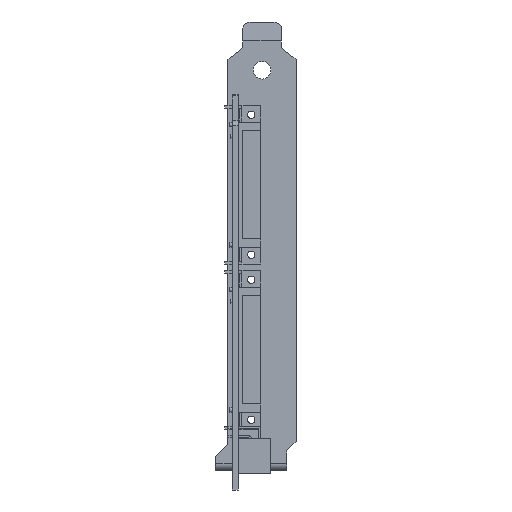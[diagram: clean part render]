
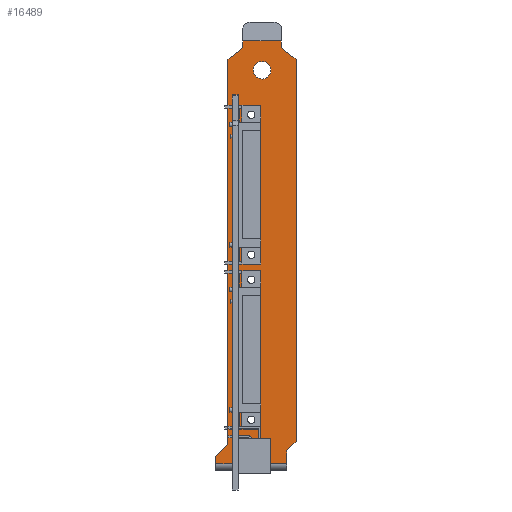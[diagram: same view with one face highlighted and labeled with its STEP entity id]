
A CAD part, front view. The second image highlights one B-rep face of the part: STEP entity #16489.
In plain terms, the highlighted planar face has unit normal (0, -1, 0).
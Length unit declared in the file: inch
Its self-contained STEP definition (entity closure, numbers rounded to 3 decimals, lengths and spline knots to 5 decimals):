
#3156=DIRECTION('',(1.,0.,0.));
#3157=VECTOR('',#3156,0.412);
#3158=CARTESIAN_POINT('',(0.108,0.33,0.758));
#3159=LINE('',#3158,#3157);
#3160=DIRECTION('',(0.,0.,-1.));
#3161=VECTOR('',#3160,0.074);
#3162=CARTESIAN_POINT('',(0.52,0.33,0.758));
#3163=LINE('',#3162,#3161);
#3164=DIRECTION('',(-0.788,0.,0.616));
#3165=VECTOR('',#3164,0.1967);
#3166=CARTESIAN_POINT('',(0.675,0.33,0.5629));
#3167=LINE('',#3166,#3165);
#3168=DIRECTION('',(0.707,0.,0.707));
#3169=VECTOR('',#3168,0.14142);
#3170=CARTESIAN_POINT('',(0.575,0.33,-3.589));
#3171=LINE('',#3170,#3169);
#3172=DIRECTION('',(0.,0.,1.));
#3173=VECTOR('',#3172,0.137);
#3174=CARTESIAN_POINT('',(0.575,0.33,-3.726));
#3175=LINE('',#3174,#3173);
#3176=DIRECTION('',(-1.,0.,0.));
#3177=VECTOR('',#3176,0.75);
#3178=CARTESIAN_POINT('',(0.575,0.33,-3.726));
#3179=LINE('',#3178,#3177);
#3180=DIRECTION('',(-0.707,0.,-0.707));
#3181=VECTOR('',#3180,0.18102);
#3182=CARTESIAN_POINT('',(-0.047,0.33,-3.52));
#3183=LINE('',#3182,#3181);
#3184=DIRECTION('',(0.,0.,-1.));
#3185=VECTOR('',#3184,4.0829);
#3186=CARTESIAN_POINT('',(-0.047,0.33,0.5629));
#3187=LINE('',#3186,#3185);
#3188=DIRECTION('',(-0.788,0.,-0.616));
#3189=VECTOR('',#3188,0.1967);
#3190=CARTESIAN_POINT('',(0.108,0.33,0.684));
#3191=LINE('',#3190,#3189);
#3192=DIRECTION('',(0.,0.,-1.));
#3193=VECTOR('',#3192,0.074);
#3194=CARTESIAN_POINT('',(0.108,0.33,0.758));
#3195=LINE('',#3194,#3193);
#3196=CARTESIAN_POINT('',(0.314,0.33,0.447));
#3197=DIRECTION('',(0.,1.,0.));
#3198=DIRECTION('',(0.,0.,1.));
#3199=AXIS2_PLACEMENT_3D('',#3196,#3197,#3198);
#3201=CARTESIAN_POINT('',(0.314,0.33,0.447));
#3202=DIRECTION('',(0.,1.,0.));
#3203=DIRECTION('',(0.,0.,-1.));
#3204=AXIS2_PLACEMENT_3D('',#3201,#3202,#3203);
#3206=DIRECTION('',(0.,0.,1.));
#3207=VECTOR('',#3206,1.32677);
#3208=CARTESIAN_POINT('',(0.062,0.33,-1.4302));
#3209=LINE('',#3208,#3207);
#3210=DIRECTION('',(1.,0.,0.));
#3211=VECTOR('',#3210,0.03937);
#3212=CARTESIAN_POINT('',(0.062,0.33,-1.4302));
#3213=LINE('',#3212,#3211);
#3214=DIRECTION('',(0.,0.,-1.));
#3215=VECTOR('',#3214,0.17717);
#3216=CARTESIAN_POINT('',(0.10137,0.33,-1.4302));
#3217=LINE('',#3216,#3215);
#3218=DIRECTION('',(1.,0.,0.));
#3219=VECTOR('',#3218,0.19685);
#3220=CARTESIAN_POINT('',(0.10137,0.33,-1.60736));
#3221=LINE('',#3220,#3219);
#3222=DIRECTION('',(0.,0.,1.));
#3223=VECTOR('',#3222,1.6811);
#3224=CARTESIAN_POINT('',(0.29822,0.33,-1.60736));
#3225=LINE('',#3224,#3223);
#3226=DIRECTION('',(1.,0.,0.));
#3227=VECTOR('',#3226,0.19685);
#3228=CARTESIAN_POINT('',(0.10137,0.33,0.07374));
#3229=LINE('',#3228,#3227);
#3230=DIRECTION('',(0.,0.,1.));
#3231=VECTOR('',#3230,0.17717);
#3232=CARTESIAN_POINT('',(0.10137,0.33,-0.10343));
#3233=LINE('',#3232,#3231);
#3234=DIRECTION('',(1.,0.,0.));
#3235=VECTOR('',#3234,0.03937);
#3236=CARTESIAN_POINT('',(0.062,0.33,-0.10343));
#3237=LINE('',#3236,#3235);
#3238=DIRECTION('',(0.,0.,1.));
#3239=VECTOR('',#3238,1.32677);
#3240=CARTESIAN_POINT('',(0.062,0.33,-3.1802));
#3241=LINE('',#3240,#3239);
#3242=DIRECTION('',(1.,0.,0.));
#3243=VECTOR('',#3242,0.03937);
#3244=CARTESIAN_POINT('',(0.062,0.33,-3.1802));
#3245=LINE('',#3244,#3243);
#3246=DIRECTION('',(0.,0.,-1.));
#3247=VECTOR('',#3246,0.17717);
#3248=CARTESIAN_POINT('',(0.10137,0.33,-3.1802));
#3249=LINE('',#3248,#3247);
#3250=DIRECTION('',(1.,0.,0.));
#3251=VECTOR('',#3250,0.19685);
#3252=CARTESIAN_POINT('',(0.10137,0.33,-3.35736));
#3253=LINE('',#3252,#3251);
#3254=DIRECTION('',(0.,0.,1.));
#3255=VECTOR('',#3254,1.6811);
#3256=CARTESIAN_POINT('',(0.29822,0.33,-3.35736));
#3257=LINE('',#3256,#3255);
#3258=DIRECTION('',(1.,0.,0.));
#3259=VECTOR('',#3258,0.19685);
#3260=CARTESIAN_POINT('',(0.10137,0.33,-1.67626));
#3261=LINE('',#3260,#3259);
#3262=DIRECTION('',(0.,0.,1.));
#3263=VECTOR('',#3262,0.17717);
#3264=CARTESIAN_POINT('',(0.10137,0.33,-1.85343));
#3265=LINE('',#3264,#3263);
#3266=DIRECTION('',(1.,0.,0.));
#3267=VECTOR('',#3266,0.03937);
#3268=CARTESIAN_POINT('',(0.062,0.33,-1.85343));
#3269=LINE('',#3268,#3267);
#3316=DIRECTION('',(0.,0.,1.));
#3317=VECTOR('',#3316,0.078);
#3318=CARTESIAN_POINT('',(-0.175,0.33,-3.726));
#3319=LINE('',#3318,#3317);
#3654=DIRECTION('',(0.,0.,1.));
#3655=VECTOR('',#3654,4.0519);
#3656=CARTESIAN_POINT('',(0.675,0.33,-3.489));
#3657=LINE('',#3656,#3655);
#12976=CARTESIAN_POINT('',(-0.175,0.33,-3.726));
#12978=VERTEX_POINT('',#12976);
#12979=CARTESIAN_POINT('',(0.575,0.33,-3.726));
#12981=VERTEX_POINT('',#12979);
#12983=CARTESIAN_POINT('',(0.575,0.33,-3.589));
#12984=VERTEX_POINT('',#12983);
#12985=CARTESIAN_POINT('',(0.675,0.33,-3.489));
#12986=VERTEX_POINT('',#12985);
#12987=CARTESIAN_POINT('',(0.108,0.33,0.684));
#12988=CARTESIAN_POINT('',(-0.047,0.33,0.5629));
#12989=VERTEX_POINT('',#12987);
#12990=VERTEX_POINT('',#12988);
#12991=CARTESIAN_POINT('',(-0.047,0.33,-3.52));
#12992=VERTEX_POINT('',#12991);
#12993=CARTESIAN_POINT('',(-0.175,0.33,-3.648));
#12994=VERTEX_POINT('',#12993);
#12995=CARTESIAN_POINT('',(0.675,0.33,0.5629));
#12996=CARTESIAN_POINT('',(0.52,0.33,0.684));
#12997=VERTEX_POINT('',#12995);
#12998=VERTEX_POINT('',#12996);
#13107=CARTESIAN_POINT('',(0.314,0.33,0.5405));
#13108=CARTESIAN_POINT('',(0.314,0.33,0.3535));
#13109=VERTEX_POINT('',#13107);
#13110=VERTEX_POINT('',#13108);
#13111=CARTESIAN_POINT('',(0.108,0.33,0.758));
#13112=VERTEX_POINT('',#13111);
#13113=CARTESIAN_POINT('',(0.52,0.33,0.758));
#13114=VERTEX_POINT('',#13113);
#13499=CARTESIAN_POINT('',(0.062,0.33,-1.4302));
#13500=CARTESIAN_POINT('',(0.062,0.33,-0.10343));
#13501=VERTEX_POINT('',#13499);
#13502=VERTEX_POINT('',#13500);
#13503=CARTESIAN_POINT('',(0.29822,0.33,-1.60736));
#13504=CARTESIAN_POINT('',(0.29822,0.33,0.07374));
#13505=VERTEX_POINT('',#13503);
#13506=VERTEX_POINT('',#13504);
#13507=CARTESIAN_POINT('',(0.10137,0.33,0.07374));
#13508=VERTEX_POINT('',#13507);
#13509=CARTESIAN_POINT('',(0.10137,0.33,-0.10343));
#13510=VERTEX_POINT('',#13509);
#13511=CARTESIAN_POINT('',(0.10137,0.33,-1.4302));
#13512=VERTEX_POINT('',#13511);
#13513=CARTESIAN_POINT('',(0.10137,0.33,-1.60736));
#13514=VERTEX_POINT('',#13513);
#13863=CARTESIAN_POINT('',(0.062,0.33,-3.1802));
#13864=CARTESIAN_POINT('',(0.062,0.33,-1.85343));
#13865=VERTEX_POINT('',#13863);
#13866=VERTEX_POINT('',#13864);
#13867=CARTESIAN_POINT('',(0.29822,0.33,-3.35736));
#13868=CARTESIAN_POINT('',(0.29822,0.33,-1.67626));
#13869=VERTEX_POINT('',#13867);
#13870=VERTEX_POINT('',#13868);
#13871=CARTESIAN_POINT('',(0.10137,0.33,-1.67626));
#13872=VERTEX_POINT('',#13871);
#13873=CARTESIAN_POINT('',(0.10137,0.33,-1.85343));
#13874=VERTEX_POINT('',#13873);
#13875=CARTESIAN_POINT('',(0.10137,0.33,-3.1802));
#13876=VERTEX_POINT('',#13875);
#13877=CARTESIAN_POINT('',(0.10137,0.33,-3.35736));
#13878=VERTEX_POINT('',#13877);
#16419=CARTESIAN_POINT('',(0.675,0.33,-3.726));
#16420=DIRECTION('',(0.,1.,0.));
#16421=DIRECTION('',(0.,0.,1.));
#16422=AXIS2_PLACEMENT_3D('',#16419,#16420,#16421);
#16423=PLANE('',#16422);
#16425=ORIENTED_EDGE('',*,*,#16424,.T.);
#16427=ORIENTED_EDGE('',*,*,#16426,.T.);
#16429=ORIENTED_EDGE('',*,*,#16428,.F.);
#16431=ORIENTED_EDGE('',*,*,#16430,.F.);
#16433=ORIENTED_EDGE('',*,*,#16432,.F.);
#16435=ORIENTED_EDGE('',*,*,#16434,.F.);
#16437=ORIENTED_EDGE('',*,*,#16436,.T.);
#16439=ORIENTED_EDGE('',*,*,#16438,.T.);
#16441=ORIENTED_EDGE('',*,*,#16440,.F.);
#16443=ORIENTED_EDGE('',*,*,#16442,.F.);
#16445=ORIENTED_EDGE('',*,*,#16444,.F.);
#16447=ORIENTED_EDGE('',*,*,#16446,.F.);
#16448=EDGE_LOOP('',(#16425,#16427,#16429,#16431,#16433,#16435,#16437,#16439,
#16441,#16443,#16445,#16447));
#16449=FACE_OUTER_BOUND('',#16448,.F.);
#16451=ORIENTED_EDGE('',*,*,#16450,.F.);
#16453=ORIENTED_EDGE('',*,*,#16452,.F.);
#16454=EDGE_LOOP('',(#16451,#16453));
#16455=FACE_BOUND('',#16454,.F.);
#16457=ORIENTED_EDGE('',*,*,#16456,.F.);
#16459=ORIENTED_EDGE('',*,*,#16458,.T.);
#16461=ORIENTED_EDGE('',*,*,#16460,.T.);
#16463=ORIENTED_EDGE('',*,*,#16462,.T.);
#16465=ORIENTED_EDGE('',*,*,#16464,.T.);
#16467=ORIENTED_EDGE('',*,*,#16466,.F.);
#16469=ORIENTED_EDGE('',*,*,#16468,.F.);
#16471=ORIENTED_EDGE('',*,*,#16470,.F.);
#16472=EDGE_LOOP('',(#16457,#16459,#16461,#16463,#16465,#16467,#16469,#16471));
#16473=FACE_BOUND('',#16472,.F.);
#16474=ORIENTED_EDGE('',*,*,#16144,.F.);
#16475=ORIENTED_EDGE('',*,*,#16180,.T.);
#16477=ORIENTED_EDGE('',*,*,#16476,.T.);
#16479=ORIENTED_EDGE('',*,*,#16478,.T.);
#16481=ORIENTED_EDGE('',*,*,#16480,.T.);
#16483=ORIENTED_EDGE('',*,*,#16482,.F.);
#16485=ORIENTED_EDGE('',*,*,#16484,.F.);
#16486=ORIENTED_EDGE('',*,*,#16392,.F.);
#16487=EDGE_LOOP('',(#16474,#16475,#16477,#16479,#16481,#16483,#16485,#16486));
#16488=FACE_BOUND('',#16487,.F.);
#16489=ADVANCED_FACE('',(#16449,#16455,#16473,#16488),#16423,.F.);
#3200=CIRCLE('',#3199,0.0935);
#3205=CIRCLE('',#3204,0.0935);
#16144=EDGE_CURVE('',#13865,#13866,#3241,.T.);
#16180=EDGE_CURVE('',#13865,#13876,#3245,.T.);
#16392=EDGE_CURVE('',#13866,#13874,#3269,.T.);
#16424=EDGE_CURVE('',#13112,#13114,#3159,.T.);
#16426=EDGE_CURVE('',#13114,#12998,#3163,.T.);
#16428=EDGE_CURVE('',#12997,#12998,#3167,.T.);
#16430=EDGE_CURVE('',#12986,#12997,#3657,.T.);
#16432=EDGE_CURVE('',#12984,#12986,#3171,.T.);
#16434=EDGE_CURVE('',#12981,#12984,#3175,.T.);
#16436=EDGE_CURVE('',#12981,#12978,#3179,.T.);
#16438=EDGE_CURVE('',#12978,#12994,#3319,.T.);
#16440=EDGE_CURVE('',#12992,#12994,#3183,.T.);
#16442=EDGE_CURVE('',#12990,#12992,#3187,.T.);
#16444=EDGE_CURVE('',#12989,#12990,#3191,.T.);
#16446=EDGE_CURVE('',#13112,#12989,#3195,.T.);
#16450=EDGE_CURVE('',#13109,#13110,#3200,.T.);
#16452=EDGE_CURVE('',#13110,#13109,#3205,.T.);
#16456=EDGE_CURVE('',#13501,#13502,#3209,.T.);
#16458=EDGE_CURVE('',#13501,#13512,#3213,.T.);
#16460=EDGE_CURVE('',#13512,#13514,#3217,.T.);
#16462=EDGE_CURVE('',#13514,#13505,#3221,.T.);
#16464=EDGE_CURVE('',#13505,#13506,#3225,.T.);
#16466=EDGE_CURVE('',#13508,#13506,#3229,.T.);
#16468=EDGE_CURVE('',#13510,#13508,#3233,.T.);
#16470=EDGE_CURVE('',#13502,#13510,#3237,.T.);
#16476=EDGE_CURVE('',#13876,#13878,#3249,.T.);
#16478=EDGE_CURVE('',#13878,#13869,#3253,.T.);
#16480=EDGE_CURVE('',#13869,#13870,#3257,.T.);
#16482=EDGE_CURVE('',#13872,#13870,#3261,.T.);
#16484=EDGE_CURVE('',#13874,#13872,#3265,.T.);
